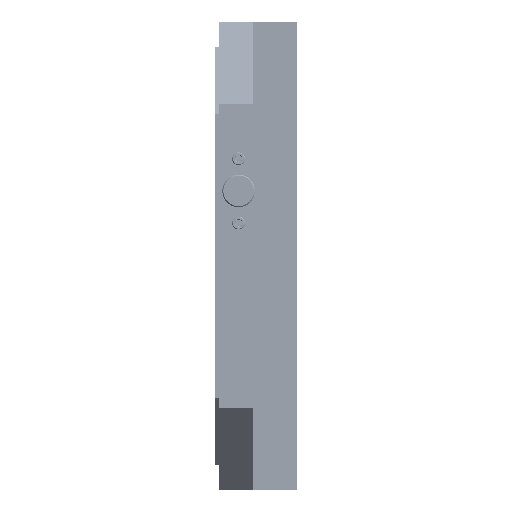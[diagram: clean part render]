
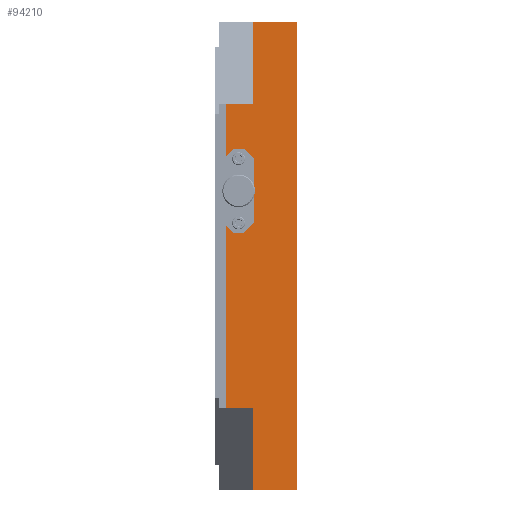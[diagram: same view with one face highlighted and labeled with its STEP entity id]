
A CAD part, left-side view. The second image highlights one B-rep face of the part: STEP entity #94210.
In plain terms, the highlighted planar face has unit normal (-1, 0, 0).
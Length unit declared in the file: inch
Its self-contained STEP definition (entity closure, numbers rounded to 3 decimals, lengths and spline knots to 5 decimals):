
#1357 = VECTOR ( 'NONE', #132331, 39.37008 ) ;
#2775 = DIRECTION ( 'NONE',  ( 0., 0., -1. ) ) ;
#6347 = AXIS2_PLACEMENT_3D ( 'NONE', #72667, #94695, #92066 ) ;
#6534 = CARTESIAN_POINT ( 'NONE',  ( -0.14, 0.07, 0.14 ) ) ;
#8317 = LINE ( 'NONE', #26527, #32161 ) ;
#8613 = ORIENTED_EDGE ( 'NONE', *, *, #90550, .F. ) ;
#8741 = CIRCLE ( 'NONE', #92381, 0.035 ) ;
#10369 = CARTESIAN_POINT ( 'NONE',  ( -0.14, 0., -1.2855 ) ) ;
#10381 = DIRECTION ( 'NONE',  ( -1., 0., 0. ) ) ;
#10758 = VERTEX_POINT ( 'NONE', #16304 ) ;
#12136 = EDGE_LOOP ( 'NONE', ( #62184, #8613 ) ) ;
#14012 = CIRCLE ( 'NONE', #26892, 0.035 ) ;
#16304 = CARTESIAN_POINT ( 'NONE',  ( -0.14, 0.505, -0.8475 ) ) ;
#18758 = ORIENTED_EDGE ( 'NONE', *, *, #122178, .F. ) ;
#19440 = CARTESIAN_POINT ( 'NONE',  ( -0.14, 0.4, -0.47013 ) ) ;
#19471 = CARTESIAN_POINT ( 'NONE',  ( -0.14, 0.505, -1.3985 ) ) ;
#20591 = VERTEX_POINT ( 'NONE', #36034 ) ;
#20972 = EDGE_CURVE ( 'NONE', #10758, #31325, #55836, .T. ) ;
#21187 = DIRECTION ( 'NONE',  ( -1., 0., 0. ) ) ;
#21830 = DIRECTION ( 'NONE',  ( 0., 0., 1. ) ) ;
#23297 = ORIENTED_EDGE ( 'NONE', *, *, #72921, .T. ) ;
#23897 = EDGE_LOOP ( 'NONE', ( #98201, #46137 ) ) ;
#26527 = CARTESIAN_POINT ( 'NONE',  ( -0.14, 0.4, -3.36 ) ) ;
#26892 = AXIS2_PLACEMENT_3D ( 'NONE', #84402, #63707, #125260 ) ;
#27173 = DIRECTION ( 'NONE',  ( 0., 0., 1. ) ) ;
#29524 = CARTESIAN_POINT ( 'NONE',  ( -0.14, 0.6, 0.14 ) ) ;
#29815 = CARTESIAN_POINT ( 'NONE',  ( -0.14, 0.4, 0.14 ) ) ;
#31232 = DIRECTION ( 'NONE',  ( 0., -1., 0. ) ) ;
#31325 = VERTEX_POINT ( 'NONE', #124370 ) ;
#32161 = VECTOR ( 'NONE', #27173, 39.37008 ) ;
#32436 = LINE ( 'NONE', #73399, #1357 ) ;
#34290 = DIRECTION ( 'NONE',  ( 0., 0., 1. ) ) ;
#34503 = CARTESIAN_POINT ( 'NONE',  ( -0.14, 0.4, -2.74987 ) ) ;
#34605 = EDGE_CURVE ( 'NONE', #70023, #53570, #121352, .T. ) ;
#36034 = CARTESIAN_POINT ( 'NONE',  ( -0.14, 0.6, -2.74987 ) ) ;
#36678 = VERTEX_POINT ( 'NONE', #29815 ) ;
#37024 = CARTESIAN_POINT ( 'NONE',  ( -0.14, 0.4, -0.47013 ) ) ;
#37637 = DIRECTION ( 'NONE',  ( 0., 1., 0. ) ) ;
#38911 = EDGE_CURVE ( 'NONE', #130175, #117634, #40716, .T. ) ;
#39632 = FACE_BOUND ( 'NONE', #23897, .T. ) ;
#40716 = LINE ( 'NONE', #122400, #132609 ) ;
#41237 = ORIENTED_EDGE ( 'NONE', *, *, #77971, .F. ) ;
#41239 = VERTEX_POINT ( 'NONE', #126871 ) ;
#44250 = ORIENTED_EDGE ( 'NONE', *, *, #59029, .F. ) ;
#44260 = DIRECTION ( 'NONE',  ( 1., 0., 0. ) ) ;
#46137 = ORIENTED_EDGE ( 'NONE', *, *, #102786, .F. ) ;
#48593 = CARTESIAN_POINT ( 'NONE',  ( -0.14, 0.6, 0.14 ) ) ;
#48615 = VERTEX_POINT ( 'NONE', #37024 ) ;
#49322 = VECTOR ( 'NONE', #82229, 39.37008 ) ;
#51044 = VERTEX_POINT ( 'NONE', #113473 ) ;
#51674 = EDGE_CURVE ( 'NONE', #52590, #41239, #102306, .T. ) ;
#52590 = VERTEX_POINT ( 'NONE', #92093 ) ;
#53570 = VERTEX_POINT ( 'NONE', #92144 ) ;
#55377 = CARTESIAN_POINT ( 'NONE',  ( -0.14, 0.4, -2.74987 ) ) ;
#55836 = CIRCLE ( 'NONE', #6347, 0.035 ) ;
#57141 = EDGE_CURVE ( 'NONE', #51044, #98565, #14012, .T. ) ;
#57494 = LINE ( 'NONE', #98307, #60100 ) ;
#59029 = EDGE_CURVE ( 'NONE', #48615, #36678, #123590, .T. ) ;
#60100 = VECTOR ( 'NONE', #88275, 39.37008 ) ;
#62184 = ORIENTED_EDGE ( 'NONE', *, *, #57141, .F. ) ;
#63707 = DIRECTION ( 'NONE',  ( -1., 0., 0. ) ) ;
#63854 = EDGE_CURVE ( 'NONE', #41239, #104592, #57494, .T. ) ;
#66447 = CIRCLE ( 'NONE', #85724, 0.035 ) ;
#67382 = VECTOR ( 'NONE', #89418, 39.37008 ) ;
#69782 = LINE ( 'NONE', #81130, #124755 ) ;
#70023 = VERTEX_POINT ( 'NONE', #88356 ) ;
#70542 = DIRECTION ( 'NONE',  ( 0., 0., 1. ) ) ;
#72667 = CARTESIAN_POINT ( 'NONE',  ( -0.14, 0.505, -0.8825 ) ) ;
#72921 = EDGE_CURVE ( 'NONE', #89507, #117634, #92880, .T. ) ;
#73399 = CARTESIAN_POINT ( 'NONE',  ( -0.14, 0., -0.9605 ) ) ;
#74187 = CARTESIAN_POINT ( 'NONE',  ( -0.14, 0.505, -0.8825 ) ) ;
#74536 = ORIENTED_EDGE ( 'NONE', *, *, #118502, .F. ) ;
#74548 = ORIENTED_EDGE ( 'NONE', *, *, #114914, .T. ) ;
#74814 = LINE ( 'NONE', #55377, #95339 ) ;
#75088 = DIRECTION ( 'NONE',  ( 0., 0., -1. ) ) ;
#75907 = CARTESIAN_POINT ( 'NONE',  ( -0.14, 0.4, -3.36 ) ) ;
#77971 = EDGE_CURVE ( 'NONE', #36678, #130175, #122854, .T. ) ;
#78491 = LINE ( 'NONE', #19440, #81102 ) ;
#78687 = EDGE_CURVE ( 'NONE', #124076, #20591, #74814, .T. ) ;
#79424 = VECTOR ( 'NONE', #31232, 39.37008 ) ;
#81102 = VECTOR ( 'NONE', #37637, 39.37008 ) ;
#81130 = CARTESIAN_POINT ( 'NONE',  ( -0.14, 0.6, 0.14 ) ) ;
#82108 = EDGE_CURVE ( 'NONE', #48615, #53570, #78491, .T. ) ;
#82133 = CARTESIAN_POINT ( 'NONE',  ( -0.14, 0.4, 0.14 ) ) ;
#82229 = DIRECTION ( 'NONE',  ( 0., -1., 0. ) ) ;
#84184 = DIRECTION ( 'NONE',  ( 0., 1., 0. ) ) ;
#84402 = CARTESIAN_POINT ( 'NONE',  ( -0.14, 0.505, -1.3635 ) ) ;
#85724 = AXIS2_PLACEMENT_3D ( 'NONE', #74187, #21187, #93554 ) ;
#87148 = ORIENTED_EDGE ( 'NONE', *, *, #51674, .F. ) ;
#88275 = DIRECTION ( 'NONE',  ( 0., 0., 1. ) ) ;
#88356 = CARTESIAN_POINT ( 'NONE',  ( -0.14, 0.6, -0.9605 ) ) ;
#88567 = VECTOR ( 'NONE', #70542, 39.37008 ) ;
#89418 = DIRECTION ( 'NONE',  ( 0., -1., 0. ) ) ;
#89507 = VERTEX_POINT ( 'NONE', #75907 ) ;
#90550 = EDGE_CURVE ( 'NONE', #98565, #51044, #8741, .T. ) ;
#92066 = DIRECTION ( 'NONE',  ( 0., 0., 1. ) ) ;
#92093 = CARTESIAN_POINT ( 'NONE',  ( -0.14, 0.6, -1.2855 ) ) ;
#92144 = CARTESIAN_POINT ( 'NONE',  ( -0.14, 0.6, -0.47013 ) ) ;
#92381 = AXIS2_PLACEMENT_3D ( 'NONE', #112323, #10381, #21830 ) ;
#92880 = LINE ( 'NONE', #104980, #49322 ) ;
#93554 = DIRECTION ( 'NONE',  ( 0., 0., 1. ) ) ;
#94210 = ADVANCED_FACE ( 'NONE', ( #99929, #39632, #120667 ), #100592, .F. ) ;
#94695 = DIRECTION ( 'NONE',  ( -1., 0., 0. ) ) ;
#94796 = CARTESIAN_POINT ( 'NONE',  ( -0.14, 0.416, -0.9605 ) ) ;
#95339 = VECTOR ( 'NONE', #84184, 39.37008 ) ;
#98201 = ORIENTED_EDGE ( 'NONE', *, *, #20972, .F. ) ;
#98307 = CARTESIAN_POINT ( 'NONE',  ( -0.14, 0.416, 0. ) ) ;
#98565 = VERTEX_POINT ( 'NONE', #19471 ) ;
#99929 = FACE_BOUND ( 'NONE', #12136, .T. ) ;
#100071 = VECTOR ( 'NONE', #34290, 39.37008 ) ;
#100592 = PLANE ( 'NONE',  #111758 ) ;
#102306 = LINE ( 'NONE', #10369, #79424 ) ;
#102786 = EDGE_CURVE ( 'NONE', #31325, #10758, #66447, .T. ) ;
#104592 = VERTEX_POINT ( 'NONE', #94796 ) ;
#104980 = CARTESIAN_POINT ( 'NONE',  ( -0.14, 0.6, -3.36 ) ) ;
#108237 = ORIENTED_EDGE ( 'NONE', *, *, #82108, .T. ) ;
#108779 = ORIENTED_EDGE ( 'NONE', *, *, #38911, .F. ) ;
#111758 = AXIS2_PLACEMENT_3D ( 'NONE', #115240, #44260, #75088 ) ;
#112323 = CARTESIAN_POINT ( 'NONE',  ( -0.14, 0.505, -1.3635 ) ) ;
#113473 = CARTESIAN_POINT ( 'NONE',  ( -0.14, 0.505, -1.3285 ) ) ;
#114914 = EDGE_CURVE ( 'NONE', #70023, #104592, #32436, .T. ) ;
#115240 = CARTESIAN_POINT ( 'NONE',  ( -0.14, 0.6, 0.14 ) ) ;
#117634 = VERTEX_POINT ( 'NONE', #119006 ) ;
#118502 = EDGE_CURVE ( 'NONE', #89507, #124076, #8317, .T. ) ;
#119006 = CARTESIAN_POINT ( 'NONE',  ( -0.14, 0.07, -3.36 ) ) ;
#120667 = FACE_OUTER_BOUND ( 'NONE', #121396, .T. ) ;
#121352 = LINE ( 'NONE', #29524, #88567 ) ;
#121396 = EDGE_LOOP ( 'NONE', ( #108779, #41237, #44250, #108237, #128305, #74548, #126358, #87148, #18758, #129777, #74536, #23297 ) ) ;
#121930 = DIRECTION ( 'NONE',  ( 0., 0., 1. ) ) ;
#122178 = EDGE_CURVE ( 'NONE', #20591, #52590, #69782, .T. ) ;
#122400 = CARTESIAN_POINT ( 'NONE',  ( -0.14, 0.07, 0.14 ) ) ;
#122854 = LINE ( 'NONE', #48593, #67382 ) ;
#123590 = LINE ( 'NONE', #82133, #100071 ) ;
#124076 = VERTEX_POINT ( 'NONE', #34503 ) ;
#124370 = CARTESIAN_POINT ( 'NONE',  ( -0.14, 0.505, -0.9175 ) ) ;
#124755 = VECTOR ( 'NONE', #121930, 39.37008 ) ;
#125260 = DIRECTION ( 'NONE',  ( 0., 0., 1. ) ) ;
#126358 = ORIENTED_EDGE ( 'NONE', *, *, #63854, .F. ) ;
#126871 = CARTESIAN_POINT ( 'NONE',  ( -0.14, 0.416, -1.2855 ) ) ;
#128305 = ORIENTED_EDGE ( 'NONE', *, *, #34605, .F. ) ;
#129777 = ORIENTED_EDGE ( 'NONE', *, *, #78687, .F. ) ;
#130175 = VERTEX_POINT ( 'NONE', #6534 ) ;
#132331 = DIRECTION ( 'NONE',  ( 0., -1., 0. ) ) ;
#132609 = VECTOR ( 'NONE', #2775, 39.37008 ) ;
